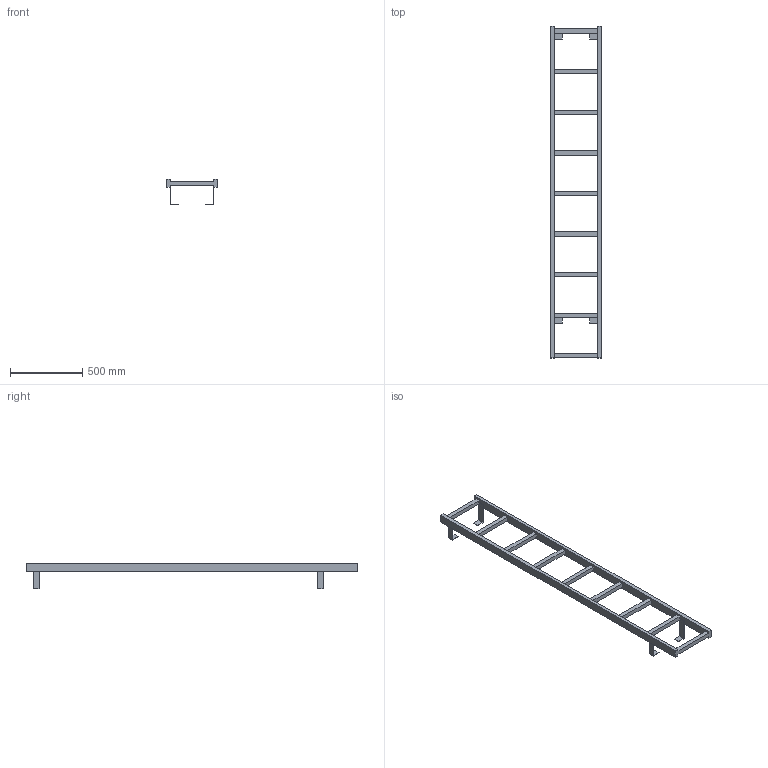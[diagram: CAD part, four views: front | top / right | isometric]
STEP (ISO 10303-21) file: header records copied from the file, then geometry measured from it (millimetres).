
FILE_DESCRIPTION((''),'2;1');
FILE_NAME('017_000109','2017-06-12T',('set'),('HUBER SE'),'PRO/ENGINEER BY PARAMETRIC TECHNOLOGY CORPORATION, 2015280','PRO/ENGINEER BY PARAMETRIC TECHNOLOGY CORPORATION, 2015280','');
FILE_SCHEMA(('CONFIG_CONTROL_DESIGN'));
Length unit declared in the file: millimetre
Products named in the file (1): 017_000109
Bounding box: 350 x 2290 x 178.5 mm (x, y, z)
Volume: 9021460 mm3; surface area: 1124108 mm2
Topology: 1 solids, 1 shells, 78 faces, 329 edges, 249 vertices
Faces by surface type: plane 78
Entity records: 3246 total; most frequent: CARTESIAN_POINT 706, DIRECTION 458, ORIENTED_EDGE 456, VECTOR 282, LINE 282, EDGE_CURVE 228, VERTEX_POINT 148, COMPOSITE_CURVE_SEGMENT 101
